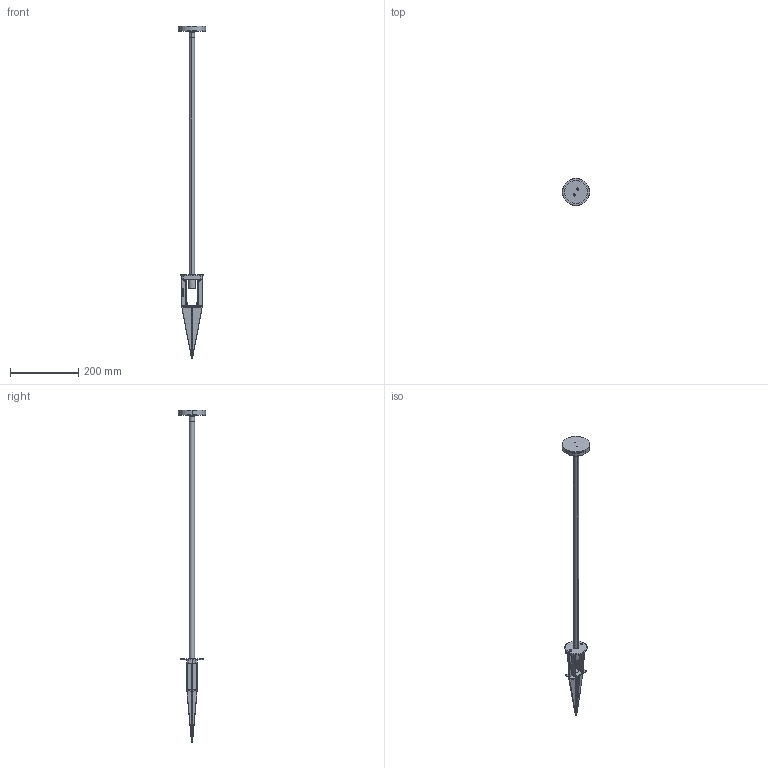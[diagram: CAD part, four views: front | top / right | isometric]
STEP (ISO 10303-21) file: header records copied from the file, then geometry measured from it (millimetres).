
FILE_DESCRIPTION((''),'2;1');
FILE_NAME('PIK_80_H_750_ASM','2026-04-22T15:36:18',('Manenti'),(''),'CREO PARAMETRIC BY PTC INC, 2025010','CREO PARAMETRIC BY PTC INC, 2025010','');
FILE_SCHEMA(('CONFIG_CONTROL_DESIGN'));
Length unit declared in the file: millimetre
Products named in the file (11): CMT8101G_1; SDT8101S_1; CMD8100A_1; CMP8150G_1; CMP8103G_1; SSPTG002_1; VIVM410V_1; VIVM408V_1; VIV2245Z_1; PIK-80_ASM_1_ASM; PIK_80_H_750_ASM
Assembly tree (12 placements, depth 3):
  PIK_80_H_750_ASM
    PIK-80_ASM_1_ASM
      CMT8101G_1
      SDT8101S_1
      CMD8100A_1
      CMP8150G_1
      CMP8103G_1
      SSPTG002_1
      VIVM410V_1  x2
      VIVM408V_1  x2
      VIV2245Z_1
Bounding box: 80 x 80 x 974 mm (x, y, z)
Volume: 199269.5 mm3; surface area: 136327.7 mm2
Topology: 11 solids, 18 shells, 1006 faces, 2517 edges, 1572 vertices
Faces by surface type: plane 316, cylinder 268, extrusion 160, bspline 110, cone 66, torus 64, sphere 22
Entity records: 41417 total; most frequent: CARTESIAN_POINT 19195, ORIENTED_EDGE 4768, DIRECTION 4136, EDGE_CURVE 2398, VERTEX_POINT 1512, AXIS2_PLACEMENT_3D 1447, VECTOR 1242, LINE 1082
